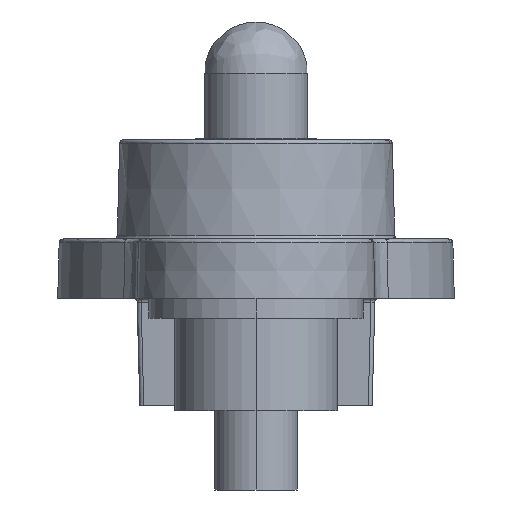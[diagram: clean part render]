
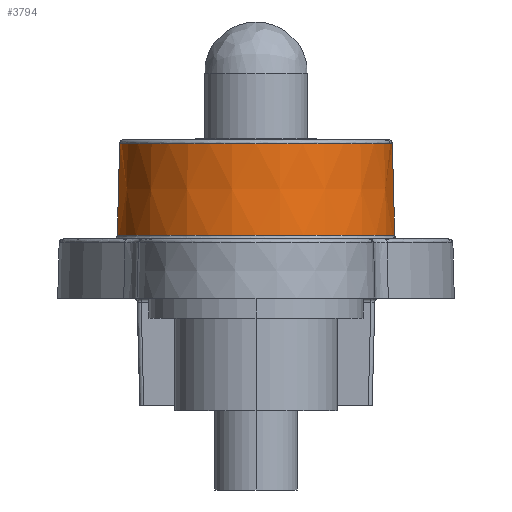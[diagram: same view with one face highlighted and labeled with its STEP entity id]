
A CAD part, left-side view. The second image highlights one B-rep face of the part: STEP entity #3794.
In plain terms, the highlighted conical face has half-angle 1.5 degrees and reference radius 3.497 mm.
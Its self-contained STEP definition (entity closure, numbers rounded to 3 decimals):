
#366 = VERTEX_POINT ( 'NONE', #5117 ) ;
#491 = EDGE_CURVE ( 'NONE', #3312, #366, #3920, .T. ) ;
#1167 = CARTESIAN_POINT ( 'NONE',  ( 14., 3.903, 0. ) ) ;
#1644 = CARTESIAN_POINT ( 'NONE',  ( 14., 1.597, 3.497 ) ) ;
#1681 = CARTESIAN_POINT ( 'NONE',  ( 14., 1.597, 0. ) ) ;
#1749 = AXIS2_PLACEMENT_3D ( 'NONE', #2832, #2860, #3252 ) ;
#1850 = ORIENTED_EDGE ( 'NONE', *, *, #4662, .T. ) ;
#2071 = VECTOR ( 'NONE', #5970, 1000. ) ;
#2258 = CARTESIAN_POINT ( 'NONE',  ( 14., 3.903, 3.437 ) ) ;
#2494 = AXIS2_PLACEMENT_3D ( 'NONE', #1167, #2606, #5711 ) ;
#2606 = DIRECTION ( 'NONE',  ( 0., -1., 0. ) ) ;
#2832 = CARTESIAN_POINT ( 'NONE',  ( 14., 1.597, 0. ) ) ;
#2860 = DIRECTION ( 'NONE',  ( 0., 1., 0. ) ) ;
#2889 = ORIENTED_EDGE ( 'NONE', *, *, #491, .F. ) ;
#3252 = DIRECTION ( 'NONE',  ( 0., 0., -1. ) ) ;
#3312 = VERTEX_POINT ( 'NONE', #4421 ) ;
#3509 = AXIS2_PLACEMENT_3D ( 'NONE', #1681, #4763, #4419 ) ;
#3637 = VECTOR ( 'NONE', #5373, 1000. ) ;
#3794 = ADVANCED_FACE ( 'NONE', ( #4571 ), #4902, .T. ) ;
#3858 = CARTESIAN_POINT ( 'NONE',  ( 14., -499000., 13070.314 ) ) ;
#3920 = LINE ( 'NONE', #3952, #2071 ) ;
#3952 = CARTESIAN_POINT ( 'NONE',  ( 14., 1.5, -3.5 ) ) ;
#4014 = VERTEX_POINT ( 'NONE', #2258 ) ;
#4419 = DIRECTION ( 'NONE',  ( 0., 0., -1. ) ) ;
#4421 = CARTESIAN_POINT ( 'NONE',  ( 14., 3.903, -3.437 ) ) ;
#4547 = EDGE_LOOP ( 'NONE', ( #1850, #6519, #2889, #5194 ) ) ;
#4571 = FACE_OUTER_BOUND ( 'NONE', #4547, .T. ) ;
#4662 = EDGE_CURVE ( 'NONE', #4014, #4797, #4805, .T. ) ;
#4763 = DIRECTION ( 'NONE',  ( 0., -1., 0. ) ) ;
#4797 = VERTEX_POINT ( 'NONE', #1644 ) ;
#4805 = LINE ( 'NONE', #3858, #3637 ) ;
#4902 = CONICAL_SURFACE ( 'NONE', #3509, 3.497, 0.026 ) ;
#5080 = EDGE_CURVE ( 'NONE', #3312, #4014, #5352, .T. ) ;
#5117 = CARTESIAN_POINT ( 'NONE',  ( 14., 1.597, -3.497 ) ) ;
#5194 = ORIENTED_EDGE ( 'NONE', *, *, #5080, .T. ) ;
#5352 = CIRCLE ( 'NONE', #2494, 3.437 ) ;
#5358 = CIRCLE ( 'NONE', #1749, 3.497 ) ;
#5373 = DIRECTION ( 'NONE',  ( 0., -1., 0.026 ) ) ;
#5476 = EDGE_CURVE ( 'NONE', #4797, #366, #5358, .T. ) ;
#5711 = DIRECTION ( 'NONE',  ( 0., 0., -1. ) ) ;
#5970 = DIRECTION ( 'NONE',  ( 0., -1., -0.026 ) ) ;
#6519 = ORIENTED_EDGE ( 'NONE', *, *, #5476, .T. ) ;
